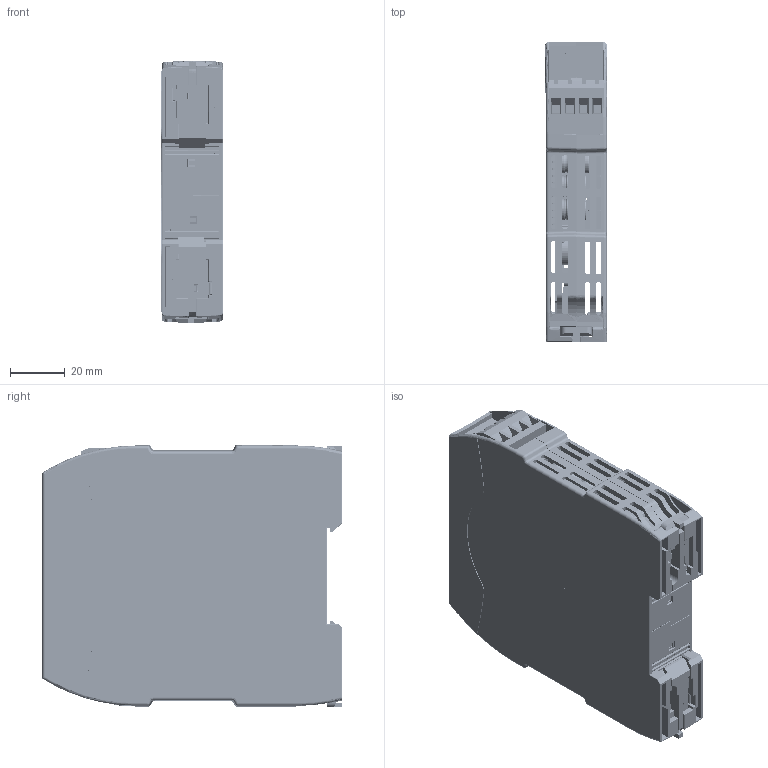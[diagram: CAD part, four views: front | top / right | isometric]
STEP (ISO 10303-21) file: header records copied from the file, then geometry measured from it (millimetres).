
FILE_DESCRIPTION(/* description */ (''),/* implementation_level */ '2;1');
FILE_NAME(/* name */ 'U:/Entwickler/EKrebs/Step_von_Ralf/Pi-Core v10.step',/* time_stamp */ '2021-02-16T11:56:21+01:00',/* author */ (''),/* organization */ (''),/* preprocessor_version */ 'ST-DEVELOPER v18.1',/* originating_system */ 'Autodesk Translation Framework v9.7.1.1290',/* authorisation */ '');
FILE_SCHEMA (('AUTOMOTIVE_DESIGN { 1 0 10303 214 3 1 1 }'));
Products named in the file (531): Pi-Core; 2016282_ASM; 2016280_ASM; 2008350_AF4; 2024287_ASM; 2008358_AF1; 2016276_ASM; 2016274_ASM; 2008350_AF3; 2001992; 2025561_ASM; 2020990_AF0_ASM; 2008250_AF19; 2008248; Pi-Core_LP0124R04; Board; Open CASCADE STEP translator 6.8 1.1.1; R705; R702; C400; T400; U300; D0008A; M08A_ASM_82_ASM; TIEBAR_M08A_2_ASM; R301; R300; R302; C300; R517; R201; R425; 6347163504; D402; R310; X300; c-1612618-4-e2-3d; Open CASCADE STEP translator 6.8 1.16.1.1; Open CASCADE STEP translator 6.8 1.16.1.2; Open CASCADE STEP translator 6.8 1.16.1.3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
Assembly tree (889 placements, depth 9):
  Pi-Core
    2016282_ASM
      2016280_ASM
        2008350_AF4
      2001992
    2024287_ASM
      2008358_AF1
    2016276_ASM
      2016274_ASM
        2008350_AF3
      2001992
    2025561_ASM
      2020990_AF0_ASM
        2008250_AF19
      2008248  x2
    Pi-Core_LP0124R04
      Board
        Open CASCADE STEP translator 6.8 1.1.1
      R705
        RES0402
      R702
        RES0402
      C400
        CAPC1608X95N_EIA_0603
      T400
        User_Library-SOT-416
      U300
        D0008A
          M08A_ASM_82_ASM
            BODY_M08A_35
            LEAD_M08A_57  x8
            TIEBAR_M08A_2_ASM
              MANIFOLD_SOLID_BREP_2784
              MANIFOLD_SOLID_BREP_2935
              MANIFOLD_SOLID_BREP_3086
              MANIFOLD_SOLID_BREP_3237
      R301
        RES0402
      R300
        RES0402
      R302
        RES0402
      C300
        CAPC1005X55N_EIA_0402
      R517
        User_Library-RES_3216-1206
      R201
        User_Library-RES_3216-1206
      R425
        6347163504
          Extruded
      D402
        User_Library-SOT23-6-2
      R310
        RES0402
      X300
        c-1612618-4-e2-3d
          Open CASCADE STEP translator 6.8 1.16.1.1
          Open CASCADE STEP translator 6.8 1.16.1.2
          Open CASCADE STEP translator 6.8 1.16.1.3
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Bounding box: 22.5 x 110.25 x 96.3 mm (x, y, z)
Volume: 68215.9 mm3; surface area: 117079.2 mm2
Topology: 594 solids, 605 shells, 34447 faces, 88925 edges, 55062 vertices
Faces by surface type: plane 21875, cylinder 10023, sphere 1056, bspline 1002, torus 340, cone 151
Full cylindrical faces by diameter (mm): 0.2 x2, 0.32 x66, 0.36 x1, 0.431 x1, 0.5 x3, 0.575 x1, 0.8 x28, 0.86 x1, 1 x29, 1.1 x9, 1.16 x4, 1.194 x3, 1.2 x8, 1.25 x4, 1.36 x1, 1.567 x2, 1.96 x4, 2 x13, 2.12 x4, 2.2 x2, 2.5 x2, 2.7 x4, 2.8 x2, 2.92 x4, 3 x5, 3.08 x4, 3.1 x2, 4.35 x2, 4.5 x2, 4.6 x1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
Entity records: 589325 total; most frequent: CARTESIAN_POINT 144862, ORIENTED_EDGE 91087, DIRECTION 86807, EDGE_CURVE 45572, LINE 35573, VECTOR 35573, VERTEX_POINT 29365, AXIS2_PLACEMENT_3D 25617
